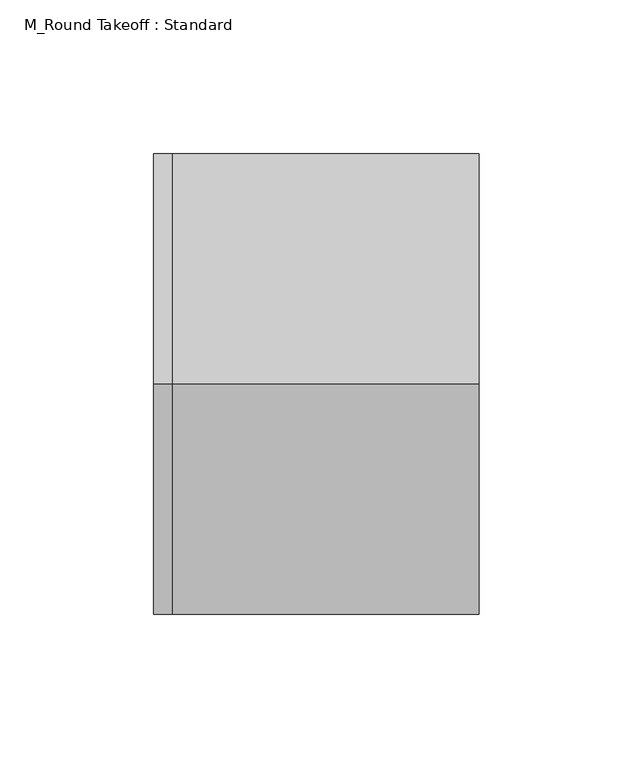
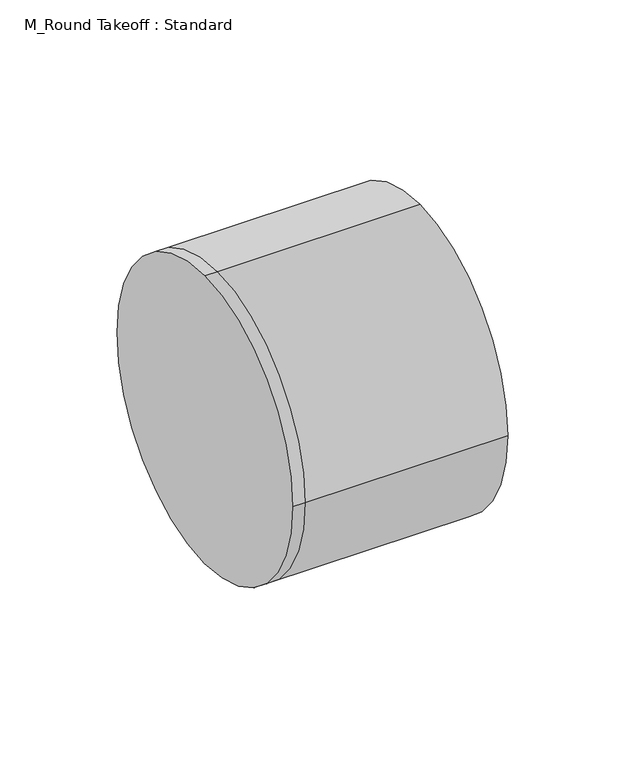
"""IFC4 building model written with IfcOpenShell, lengths in millimetres: duct fitting geometry, M_Round Takeoff : Standard."""

from ifc_helpers import new_model, si_unit, frame, origin, place, context, project, spatial, circle_curve, source, transform, mapped, element, save
from ifc_brep_helpers import plane_surface, cylinder_surface, advanced_brep


def m_round_takeoff_standard_8bf94ee8(model_context):
    return source(origin(), model_context, "Body", "AdvancedBrep", [
        advanced_brep(
        [(-6.0971781, 0.0, 75.0), (-6.0971781, 75.0, 0.0), (-6.0971781, 0.0, -75.0), (-6.0971781, -75.0, 0.0), (0.0, 0.0, 75.0), (0.0, 75.0, 0.0), (0.0, 0.0, -75.0), (0.0, -75.0, 0.0), (100.0011781, 0.0, 75.0), (100.0011781, -75.0, 0.0), (100.0011781, 0.0, -75.0), (100.0011781, 75.0, 0.0)],
        [
            (0, 1, circle_curve(frame((-6.0971781, 0.0, 0.0), z_axis=(-1.0, 0.0, 0.0), x_axis=(0.0, 1.0, 0.0)), 75.0)),
            (1, 2, circle_curve(frame((-6.0971781, 0.0, 0.0), z_axis=(-1.0, 0.0, 0.0), x_axis=(0.0, 1.0, 0.0)), 75.0)),
            (2, 3, circle_curve(frame((-6.0971781, 0.0, 0.0), z_axis=(-1.0, 0.0, 0.0), x_axis=(0.0, 1.0, 0.0)), 75.0)),
            (3, 0, circle_curve(frame((-6.0971781, 0.0, 0.0), z_axis=(-1.0, 0.0, 0.0), x_axis=(0.0, 1.0, 0.0)), 75.0)),
            (0, 4),
            (4, 5, circle_curve(frame((0.0, 0.0, 0.0), z_axis=(-1.0, 0.0, 0.0), x_axis=(0.0, 1.0, 0.0)), 75.0)),
            (5, 1),
            (5, 6, circle_curve(frame((0.0, 0.0, 0.0), z_axis=(-1.0, 0.0, 0.0), x_axis=(0.0, 1.0, 0.0)), 75.0)),
            (6, 2),
            (6, 7, circle_curve(frame((0.0, 0.0, 0.0), z_axis=(-1.0, 0.0, 0.0), x_axis=(0.0, 1.0, 0.0)), 75.0)),
            (7, 3),
            (7, 4, circle_curve(frame((0.0, 0.0, 0.0), z_axis=(-1.0, 0.0, 0.0), x_axis=(0.0, 1.0, 0.0)), 75.0)),
            (8, 9, circle_curve(frame((100.0011781, 0.0, 0.0), z_axis=(1.0, 0.0, 0.0), x_axis=(0.0, 1.0, 0.0)), 75.0)),
            (9, 10, circle_curve(frame((100.0011781, 0.0, 0.0), z_axis=(1.0, 0.0, 0.0), x_axis=(0.0, 1.0, 0.0)), 75.0)),
            (10, 11, circle_curve(frame((100.0011781, 0.0, 0.0), z_axis=(1.0, 0.0, 0.0), x_axis=(0.0, 1.0, 0.0)), 75.0)),
            (11, 8, circle_curve(frame((100.0011781, 0.0, 0.0), z_axis=(1.0, 0.0, 0.0), x_axis=(0.0, 1.0, 0.0)), 75.0)),
            (11, 5),
            (4, 8),
            (10, 6),
            (9, 7),
        ],
        [
            plane_surface(frame((-6.0971781, 0.0, 0.0), z_axis=(-1.0, 0.0, 0.0), x_axis=(0.0, 0.0, 1.0))),
            cylinder_surface(frame((-6.0971781, 0.0, 0.0), z_axis=(-1.0, 0.0, 0.0), x_axis=(0.0, 1.0, 0.0)), 75.0),
            plane_surface(frame((100.0011781, 0.0, 0.0), z_axis=(1.0, 0.0, 0.0), x_axis=(0.0, 0.0, 1.0))),
            cylinder_surface(frame((0.0, 0.0, 0.0), z_axis=(-1.0, 0.0, 0.0), x_axis=(0.0, 1.0, 0.0)), 75.0),
        ],
        [
            (0, [[1, 2, 3, 4]]),
            (1, [[-1, 5, 6, 7]]),
            (1, [[-2, -7, 8, 9]]),
            (1, [[-3, -9, 10, 11]]),
            (1, [[-4, -11, 12, -5]]),
            (2, [[13, 14, 15, 16]]),
            (3, [[-16, 17, -6, 18]]),
            (3, [[-15, 19, -8, -17]]),
            (3, [[-14, 20, -10, -19]]),
            (3, [[-13, -18, -12, -20]]),
        ],
    ),
        advanced_brep(
        [(100.0011781, 0.0, 75.0), (100.0011781, -75.0, 0.0), (100.0011781, 0.0, -75.0), (100.0011781, 75.0, 0.0), (0.0, 75.0, 0.0), (0.0, 0.0, 75.0), (0.0, 0.0, -75.0), (0.0, -75.0, 0.0), (-6.0971781, 0.0, 75.0), (-6.0971781, 75.0, 0.0), (-6.0971781, 0.0, -75.0), (-6.0971781, -75.0, 0.0)],
        [
            (0, 1, circle_curve(frame((100.0011781, 0.0, 0.0), z_axis=(1.0, 0.0, 0.0), x_axis=(0.0, 1.0, 0.0)), 75.0)),
            (1, 2, circle_curve(frame((100.0011781, 0.0, 0.0), z_axis=(1.0, 0.0, 0.0), x_axis=(0.0, 1.0, 0.0)), 75.0)),
            (2, 3, circle_curve(frame((100.0011781, 0.0, 0.0), z_axis=(1.0, 0.0, 0.0), x_axis=(0.0, 1.0, 0.0)), 75.0)),
            (3, 0, circle_curve(frame((100.0011781, 0.0, 0.0), z_axis=(1.0, 0.0, 0.0), x_axis=(0.0, 1.0, 0.0)), 75.0)),
            (3, 4),
            (4, 5, circle_curve(frame((0.0, 0.0, 0.0), z_axis=(1.0, 0.0, 0.0), x_axis=(0.0, 1.0, 0.0)), 75.0)),
            (5, 0),
            (2, 6),
            (6, 4, circle_curve(frame((0.0, 0.0, 0.0), z_axis=(1.0, 0.0, 0.0), x_axis=(0.0, 1.0, 0.0)), 75.0)),
            (1, 7),
            (7, 6, circle_curve(frame((0.0, 0.0, 0.0), z_axis=(1.0, 0.0, 0.0), x_axis=(0.0, 1.0, 0.0)), 75.0)),
            (5, 7, circle_curve(frame((0.0, 0.0, 0.0), z_axis=(1.0, 0.0, 0.0), x_axis=(0.0, 1.0, 0.0)), 75.0)),
            (8, 9, circle_curve(frame((-6.0971781, 0.0, 0.0), z_axis=(-1.0, 0.0, 0.0), x_axis=(0.0, 1.0, 0.0)), 75.0)),
            (9, 10, circle_curve(frame((-6.0971781, 0.0, 0.0), z_axis=(-1.0, 0.0, 0.0), x_axis=(0.0, 1.0, 0.0)), 75.0)),
            (10, 11, circle_curve(frame((-6.0971781, 0.0, 0.0), z_axis=(-1.0, 0.0, 0.0), x_axis=(0.0, 1.0, 0.0)), 75.0)),
            (11, 8, circle_curve(frame((-6.0971781, 0.0, 0.0), z_axis=(-1.0, 0.0, 0.0), x_axis=(0.0, 1.0, 0.0)), 75.0)),
            (8, 5),
            (4, 9),
            (6, 10),
            (7, 11),
        ],
        [
            plane_surface(frame((100.0011781, 0.0, 0.0), z_axis=(1.0, 0.0, 0.0), x_axis=(0.0, 0.0, 1.0))),
            cylinder_surface(frame((0.0, 0.0, 0.0), z_axis=(-1.0, 0.0, 0.0), x_axis=(0.0, 1.0, 0.0)), 75.0),
            plane_surface(frame((-6.0971781, 0.0, 0.0), z_axis=(-1.0, 0.0, 0.0), x_axis=(0.0, 0.0, 1.0))),
            cylinder_surface(frame((-6.0971781, 0.0, 0.0), z_axis=(-1.0, 0.0, 0.0), x_axis=(0.0, 1.0, 0.0)), 75.0),
        ],
        [
            (0, [[1, 2, 3, 4]]),
            (1, [[-4, 5, 6, 7]]),
            (1, [[-3, 8, 9, -5]]),
            (1, [[-2, 10, 11, -8]]),
            (1, [[-1, -7, 12, -10]]),
            (2, [[13, 14, 15, 16]]),
            (3, [[-13, 17, -6, 18]]),
            (3, [[-14, -18, -9, 19]]),
            (3, [[-15, -19, -11, 20]]),
            (3, [[-16, -20, -12, -17]]),
        ],
    ),
        advanced_brep(
        [(-6.0971781, 0.0, 75.0), (-6.0971781, 75.0, 0.0), (-6.0971781, 0.0, -75.0), (-6.0971781, -75.0, 0.0), (0.0, 0.0, 75.0), (0.0, 75.0, 0.0), (0.0, 0.0, -75.0), (0.0, -75.0, 0.0), (100.0011781, 0.0, 75.0), (100.0011781, -75.0, 0.0), (100.0011781, 0.0, -75.0), (100.0011781, 75.0, 0.0)],
        [
            (0, 1, circle_curve(frame((-6.0971781, 0.0, 0.0), z_axis=(-1.0, 0.0, 0.0), x_axis=(0.0, 1.0, 0.0)), 75.0)),
            (1, 2, circle_curve(frame((-6.0971781, 0.0, 0.0), z_axis=(-1.0, 0.0, 0.0), x_axis=(0.0, 1.0, 0.0)), 75.0)),
            (2, 3, circle_curve(frame((-6.0971781, 0.0, 0.0), z_axis=(-1.0, 0.0, 0.0), x_axis=(0.0, 1.0, 0.0)), 75.0)),
            (3, 0, circle_curve(frame((-6.0971781, 0.0, 0.0), z_axis=(-1.0, 0.0, 0.0), x_axis=(0.0, 1.0, 0.0)), 75.0)),
            (0, 4),
            (4, 5, circle_curve(frame((0.0, 0.0, 0.0), z_axis=(-1.0, 0.0, 0.0), x_axis=(0.0, 1.0, 0.0)), 75.0)),
            (5, 1),
            (5, 6, circle_curve(frame((0.0, 0.0, 0.0), z_axis=(-1.0, 0.0, 0.0), x_axis=(0.0, 1.0, 0.0)), 75.0)),
            (6, 2),
            (6, 7, circle_curve(frame((0.0, 0.0, 0.0), z_axis=(-1.0, 0.0, 0.0), x_axis=(0.0, 1.0, 0.0)), 75.0)),
            (7, 3),
            (7, 4, circle_curve(frame((0.0, 0.0, 0.0), z_axis=(-1.0, 0.0, 0.0), x_axis=(0.0, 1.0, 0.0)), 75.0)),
            (8, 9, circle_curve(frame((100.0011781, 0.0, 0.0), z_axis=(1.0, 0.0, 0.0), x_axis=(0.0, 1.0, 0.0)), 75.0)),
            (9, 10, circle_curve(frame((100.0011781, 0.0, 0.0), z_axis=(1.0, 0.0, 0.0), x_axis=(0.0, 1.0, 0.0)), 75.0)),
            (10, 11, circle_curve(frame((100.0011781, 0.0, 0.0), z_axis=(1.0, 0.0, 0.0), x_axis=(0.0, 1.0, 0.0)), 75.0)),
            (11, 8, circle_curve(frame((100.0011781, 0.0, 0.0), z_axis=(1.0, 0.0, 0.0), x_axis=(0.0, 1.0, 0.0)), 75.0)),
            (11, 5),
            (4, 8),
            (10, 6),
            (9, 7),
        ],
        [
            plane_surface(frame((-6.0971781, 0.0, 0.0), z_axis=(-1.0, 0.0, 0.0), x_axis=(0.0, 0.0, 1.0))),
            cylinder_surface(frame((-6.0971781, 0.0, 0.0), z_axis=(-1.0, 0.0, 0.0), x_axis=(0.0, 1.0, 0.0)), 75.0),
            plane_surface(frame((100.0011781, 0.0, 0.0), z_axis=(1.0, 0.0, 0.0), x_axis=(0.0, 0.0, 1.0))),
            cylinder_surface(frame((0.0, 0.0, 0.0), z_axis=(-1.0, 0.0, 0.0), x_axis=(0.0, 1.0, 0.0)), 75.0),
        ],
        [
            (0, [[1, 2, 3, 4]]),
            (1, [[-1, 5, 6, 7]]),
            (1, [[-2, -7, 8, 9]]),
            (1, [[-3, -9, 10, 11]]),
            (1, [[-4, -11, 12, -5]]),
            (2, [[13, 14, 15, 16]]),
            (3, [[-16, 17, -6, 18]]),
            (3, [[-15, 19, -8, -17]]),
            (3, [[-14, 20, -10, -19]]),
            (3, [[-13, -18, -12, -20]]),
        ],
    ),
    ])


if __name__ == "__main__":
    model = new_model("IFC4")
    model_context = context("Model", 3, world=origin())
    ifc_project = project(units=[si_unit("LENGTHUNIT", "METRE", prefix="MILLI")], contexts=[model_context])
    site = spatial("IfcSite", under=ifc_project)
    building = spatial("IfcBuilding", under=site)
    placement = place(None, origin())
    m_round_takeoff_standard_shape = m_round_takeoff_standard_8bf94ee8(model_context)
    element("IfcDuctFitting", 1, ObjectType="M_Round Takeoff : Standard", at=placement, inside=building, context=model_context, shape_type="MappedRepresentation", body=[
        mapped(m_round_takeoff_standard_shape, transform((0.0, 0.0, 0.0), x_axis=(1.0, 0.0, 0.0), y_axis=(0.0, 1.0, 0.0), z_axis=(0.0, 0.0, 1.0))),
    ])
    save(model, "model.ifc")
